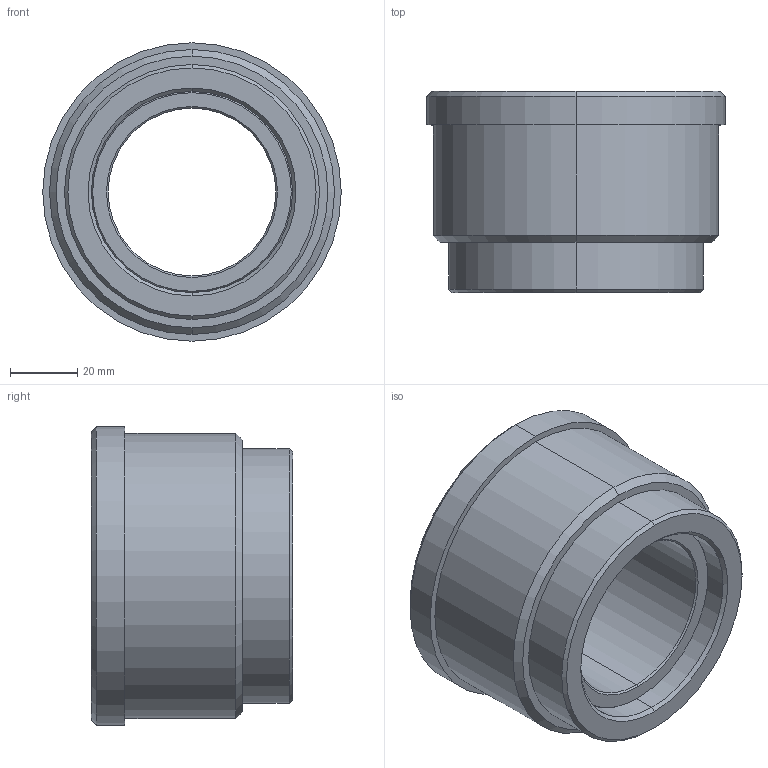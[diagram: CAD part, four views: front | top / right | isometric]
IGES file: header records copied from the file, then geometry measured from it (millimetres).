
Start section: 3D InterOp IGES (Version 20 0 1), Spatial Corp. Copyright (c) 1999-2007.
Global section: file name: 10.10.05.igs; native system: Spatial Corp.; preprocessor: 3D InterOp GENERIC/IGES 3.0; author: Noname; organization: Noname; date: 20111110.163802; units: metre
Bounding box: 89 x 60 x 89 mm (x, y, z)
Surface area: 54000.3 mm2 (no closed solid volume)
Topology: 0 solids, 0 shells, 62 faces, 1200 edges, 2037 vertices
Faces by surface type: revolution 48, extrusion 14
